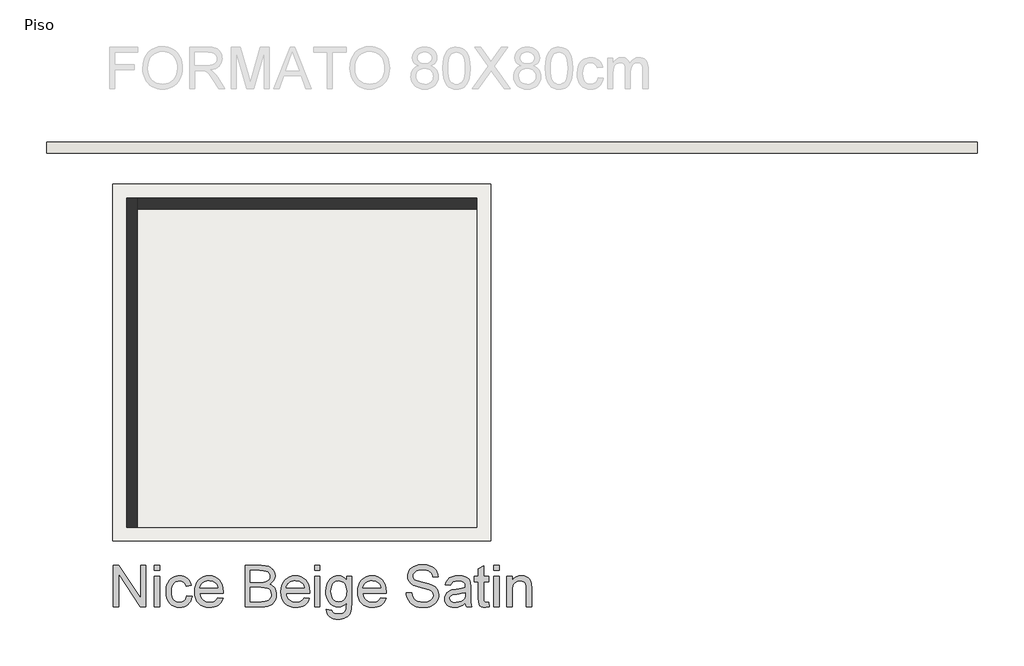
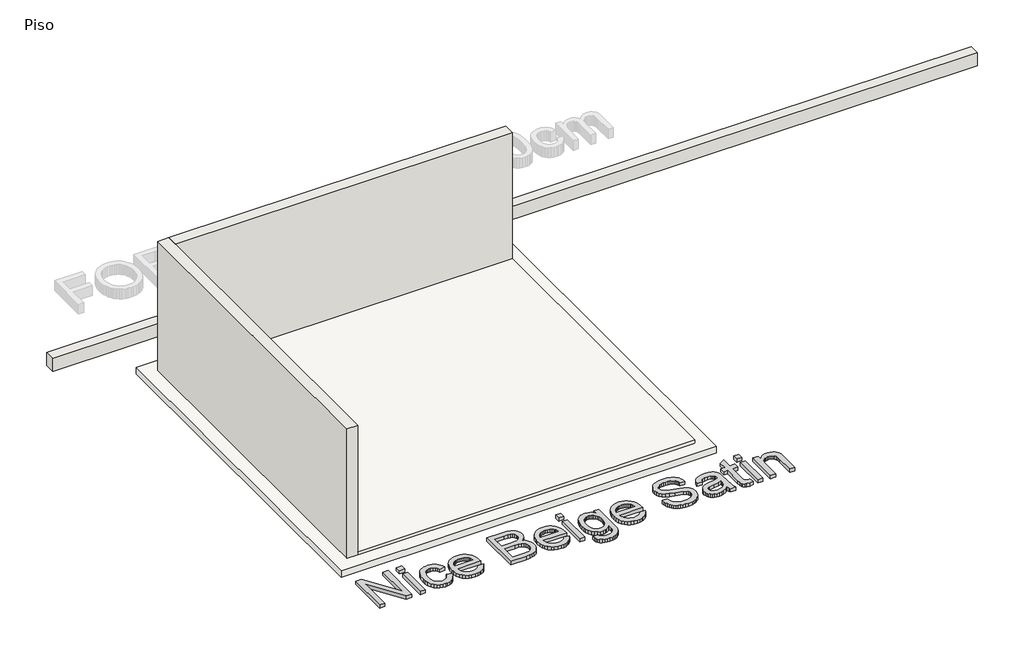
# One storey, part 1 of 2: 3 walls, 2 slabs, 1 proxy.
"""IFC4 building model written with IfcOpenShell, lengths in millimetres."""

import ifcopenshell
import ifcopenshell.guid

model = None  # the IFC model being written
_history = None  # IfcOwnerHistory: only IFC2X3 demands one
_inside = {}  # id of a spatial element -> (the spatial element, [elements in it])
_under = {}  # id of a project, library or spatial element -> (it, [spatial elements below it])
_declared = {}  # id of a project -> (the project, [libraries it declares])
_typed = {}  # id of a type object -> (the type object, [elements of that type])
_made_of = {}  # id of a material, layer set ... -> (it, [elements and type objects made of it])


def new_model(schema):
    """Start an empty IFC model of exactly this schema.

    Asked for "IFC4X3", IfcOpenShell would pick the latest addendum, in which some entities
    have other attributes; the version numbers below select the first issue.
    IFC2X3 requires an IfcOwnerHistory on every rooted entity: one is made here for all.
    """
    global model, _history
    if schema == "IFC4X3":
        model = ifcopenshell.file(schema_version=(4, 3, 0, 0))
    else:
        model = ifcopenshell.file(schema=schema)
    _inside.clear()
    _under.clear()
    _declared.clear()
    _typed.clear()
    _made_of.clear()
    _history = None
    if model.schema == "IFC2X3":
        org = make("IfcOrganization", Name="unknown")
        user = make(
            "IfcPersonAndOrganization",
            ThePerson=make("IfcPerson", FamilyName="unknown"),
            TheOrganization=org,
        )
        app = make(
            "IfcApplication",
            ApplicationDeveloper=org,
            Version="unknown",
            ApplicationFullName="unknown",
            ApplicationIdentifier="unknown",
        )
        _history = make(
            "IfcOwnerHistory",
            OwningUser=user,
            OwningApplication=app,
            ChangeAction="ADDED",
            CreationDate=0,
        )
    return model


def make(cls, **values):
    """One entity of the class cls with the attributes given. An attribute that is None is left unset."""
    return model.create_entity(
        cls, **{name: value for name, value in values.items() if value is not None}
    )


def rooted(cls, **values):
    """An entity with a GlobalId (a new one), such as an element, a storey or a relation."""
    return make(cls, GlobalId=ifcopenshell.guid.new(), OwnerHistory=_history, **values)


def si_unit(unit_type, name, prefix=None):
    """IfcSIUnit, for example si_unit("LENGTHUNIT", "METRE", prefix="MILLI")."""
    return make("IfcSIUnit", UnitType=unit_type, Prefix=prefix, Name=name)


def assignment(units):
    """IfcUnitAssignment: the units of a project."""
    return None if units is None else make("IfcUnitAssignment", Units=units)


def point(xyz):
    """IfcCartesianPoint."""
    return None if xyz is None else make("IfcCartesianPoint", Coordinates=xyz)


def direction(xyz):
    """IfcDirection."""
    return None if xyz is None else make("IfcDirection", DirectionRatios=xyz)


def frame(location, z_axis=None, x_axis=None):
    """IfcAxis2Placement3D, a coordinate frame: its origin and axes. An axis left out is left unset."""
    return make(
        "IfcAxis2Placement3D",
        Location=point(location),
        Axis=direction(z_axis),
        RefDirection=direction(x_axis),
    )


def origin():
    """The frame at (0, 0, 0) with its axes left unset."""
    return frame((0.0, 0.0, 0.0))


def origin_with_axes():
    """The frame at (0, 0, 0) with the z axis (0, 0, 1) and the x axis (1, 0, 0) written out."""
    return frame((0.0, 0.0, 0.0), z_axis=(0.0, 0.0, 1.0), x_axis=(1.0, 0.0, 0.0))


def place(relative_to, where):
    """IfcLocalPlacement: puts the frame where relative to a parent placement (None: the world)."""
    return make(
        "IfcLocalPlacement", PlacementRelTo=relative_to, RelativePlacement=where
    )


def context(
    kind, dimensions, precision=None, world=None, true_north=None, identifier=None
):
    """IfcGeometricRepresentationContext, for example the 3D "Model" context."""
    return make(
        "IfcGeometricRepresentationContext",
        ContextIdentifier=identifier,
        ContextType=kind,
        CoordinateSpaceDimension=dimensions,
        Precision=precision,
        WorldCoordinateSystem=world,
        TrueNorth=true_north,
    )


def project(units=None, contexts=None):
    """IfcProject with its units and contexts."""
    return rooted(
        "IfcProject",
        Name="project",
        RepresentationContexts=contexts,
        UnitsInContext=assignment(units),
    )


def spatial(cls, under=None, at=None, **own):
    """A site, building, storey or space (cls), placed at a placement, below another one or the project."""
    s = rooted(cls, ObjectPlacement=at, **own)
    if under is not None:
        _under.setdefault(under.id(), (under, []))[1].append(s)
    return s


def polyline(points):
    """IfcPolyline through the points."""
    return make("IfcPolyline", Points=[point(p) for p in points])


def outline(outer, holes=None, kind="AREA"):
    """IfcArbitraryClosedProfileDef: a profile drawn as a closed curve; with holes, ...WithVoids."""
    if holes is None:
        return make("IfcArbitraryClosedProfileDef", ProfileType=kind, OuterCurve=outer)
    return make(
        "IfcArbitraryProfileDefWithVoids",
        ProfileType=kind,
        OuterCurve=outer,
        InnerCurves=holes,
    )


def extrude(swept, where, along, depth):
    """IfcExtrudedAreaSolid: the profile swept, set in the frame where, extruded along a direction by depth."""
    return make(
        "IfcExtrudedAreaSolid",
        SweptArea=swept,
        Position=where,
        ExtrudedDirection=direction(along),
        Depth=depth,
    )


def faces_of(points, faces, orient=None, outer=None):
    """IfcFace entities. A face is a list of loops; a loop is a list of indices into points, from 0.

    orient and outer hold one flag for each loop. By default every Orientation is true, the
    first loop of a face is its IfcFaceOuterBound and the others are IfcFaceBound.
    """
    made = []
    for i, loops in enumerate(faces):
        bounds = []
        for j, loop in enumerate(loops):
            is_outer = j == 0 if outer is None else outer[i][j]
            bounds.append(
                make(
                    "IfcFaceOuterBound" if is_outer else "IfcFaceBound",
                    Bound=make("IfcPolyLoop", Polygon=[points[k] for k in loop]),
                    Orientation=True if orient is None else orient[i][j],
                )
            )
        made.append(make("IfcFace", Bounds=bounds))
    return made


def faceted_brep(points, faces, orient=None, outer=None, voids=None):
    """IfcFacetedBrep: a solid bounded by flat faces; with voids (closed shells), ...WithVoids."""
    shared = [point(p) for p in points]
    hull = make("IfcClosedShell", CfsFaces=faces_of(shared, faces, orient, outer))
    if voids is None:
        return make("IfcFacetedBrep", Outer=hull)
    return make(
        "IfcFacetedBrepWithVoids",
        Outer=hull,
        Voids=[
            make(cls, CfsFaces=faces_of(shared, fs, o, b)) for cls, fs, o, b in voids
        ],
    )


def shape(context_of_items, identifier, shape_type, items):
    """IfcShapeRepresentation: the items that make up one representation, for example the "Body"."""
    return make(
        "IfcShapeRepresentation",
        ContextOfItems=context_of_items,
        RepresentationIdentifier=identifier,
        RepresentationType=shape_type,
        Items=items,
    )


def made_of(thing, what):
    """Note that an element or type object is made of a material, layer set ...; save() writes the relation."""
    if what is not None:
        _made_of.setdefault(what.id(), (what, []))[1].append(thing)
    return thing


def element(
    cls,
    number,
    at=None,
    inside=None,
    cuts=None,
    type_object=None,
    material=None,
    context=None,
    identifier="Body",
    shape_type=None,
    held_by="IfcProductDefinitionShape",
    body=None,
    shapes=None,
    **own,
):
    """One element of the class cls, such as IfcWall. Its Tag is "e" and its number.

    at: its placement. inside: the storey or other place that contains it. cuts: it is an
    opening in that element (IfcRelVoidsElement). A single representation is given by context,
    identifier, shape_type and body (its items); several are given by shapes. held_by: the class
    of the entity that holds the representations. save() writes the other relations.
    """
    e = rooted(cls, Tag="e%d" % number, ObjectPlacement=at, **own)
    if body is not None:
        shapes = [shape(context, identifier, shape_type, body)]
    if shapes is not None:
        e.Representation = make(held_by, Representations=shapes)
    if inside is not None:
        _inside.setdefault(inside.id(), (inside, []))[1].append(e)
    if cuts is not None:
        rooted(
            "IfcRelVoidsElement", RelatingBuildingElement=cuts, RelatedOpeningElement=e
        )
    if type_object is not None:
        _typed.setdefault(type_object.id(), (type_object, []))[1].append(e)
    return made_of(e, material)


def aggregate(whole, parts):
    """IfcRelAggregates: a whole, such as a stair, and the parts it consists of."""
    return rooted("IfcRelAggregates", RelatingObject=whole, RelatedObjects=parts)


def save(model, path):
    """Write the relations noted so far, then the file.

    IfcRelAggregates (storeys below a building ...), IfcRelContainedInSpatialStructure (elements
    in a storey), IfcRelDefinesByType, IfcRelAssociatesMaterial and IfcRelDeclares: one each for
    every whole, place, type object, material and project.
    """
    for whole, parts in _under.values():
        aggregate(whole, parts)
    for where, things in _inside.values():
        rooted(
            "IfcRelContainedInSpatialStructure",
            RelatedElements=things,
            RelatingStructure=where,
        )
    for kind, things in _typed.values():
        rooted("IfcRelDefinesByType", RelatedObjects=things, RelatingType=kind)
    for what, things in _made_of.values():
        rooted("IfcRelAssociatesMaterial", RelatedObjects=things, RelatingMaterial=what)
    for by, libraries in _declared.values():
        rooted("IfcRelDeclares", RelatingContext=by, RelatedDefinitions=libraries)
    model.write(path)


model = new_model("IFC4")

# Units and contexts
model_context = context("Model", 3, world=origin())
ifc_project = project(units=[si_unit("LENGTHUNIT", "METRE", prefix="MILLI")], contexts=[model_context])

# Site, building, storey
site = spatial("IfcSite", under=ifc_project)
building = spatial("IfcBuilding", under=site)
storey = spatial("IfcBuildingStorey", under=building, Name="Piso", Elevation=0.0)

# Proxy
placement = place(None, origin())
element("IfcBuildingElementProxy", 1, Name="600mm Arial", ObjectType="600mm Arial", at=placement, inside=storey, context=model_context, shape_type="SweptSolid", body=[
    extrude(outline(polyline([(92656.5593132, -4817.6985035), (92656.5593132, -4214.9606426), (92737.1990466, -4214.9606426), (93052.1060344, -4692.4714724), (93052.1060344, -4214.9606426), (93127.448267, -4214.9606426), (93127.448267, -4817.6985035), (93046.8085337, -4817.6985035), (92731.9015458, -4340.040521), (92731.9015458, -4817.6985035), (92656.5593132, -4817.6985035)])), origin_with_axes(), (0.0, 0.0, 1.0), 50.0),
    extrude(outline(polyline([(93249.879395, -4290.3028752), (93249.879395, -4214.9606426), (93325.2216276, -4214.9606426), (93325.2216276, -4290.3028752), (93249.879395, -4290.3028752)])), origin_with_axes(), (0.0, 0.0, 1.0), 50.0),
    extrude(outline(polyline([(93249.879395, -4817.6985035), (93249.879395, -4375.0628869), (93325.2216276, -4375.0628869), (93325.2216276, -4817.6985035), (93249.879395, -4817.6985035)])), origin_with_axes(), (0.0, 0.0, 1.0), 50.0),
    extrude(outline(polyline([(93720.7683489, -4657.5962592), (93796.1105815, -4667.0140383), (93787.91601, -4702.5652346), (93775.1045195, -4734.0237437), (93757.67611, -4761.3895656), (93735.6307815, -4784.6627003), (93709.8974359, -4803.2361426), (93681.4049754, -4816.502887), (93650.1533999, -4824.4629337), (93616.1427094, -4827.1162826), (93573.8868638, -4823.41447), (93535.9996168, -4812.3090323), (93502.4809685, -4793.7999694), (93473.3309189, -4767.8872814), (93449.7358874, -4735.0584118), (93432.8822935, -4695.8008044), (93422.7701372, -4650.1144591), (93419.3994184, -4597.999376), (93425.1567716, -4530.9528824), (93432.3534632, -4500.7819602), (93442.4288313, -4472.8459212), (93455.4518539, -4447.7057854), (93471.4915089, -4425.9225728), (93490.5477963, -4407.4962833), (93512.620716, -4392.4269171), (93536.7123881, -4380.7098755), (93561.8249328, -4372.3405602), (93587.9583501, -4367.3189709), (93615.1126398, -4365.6451078), (93648.5393176, -4367.9443703), (93678.7746191, -4374.8421577), (93705.8185443, -4386.3384701), (93729.6710931, -4402.4333074), (93749.9275955, -4422.7587876), (93766.1833812, -4446.9470288), (93778.4384501, -4474.9980309), (93786.6928024, -4506.911794), (93711.3505698, -4516.3295731), (93697.6837537, -4483.4593168), (93676.4017802, -4459.896475), (93648.6818719, -4445.7146241), (93615.701251, -4440.9873405), (93590.1012627, -4443.3141941), (93567.012069, -4450.2947549), (93546.4336699, -4461.929023), (93528.3660654, -4478.2169984), (93513.6553841, -4499.53576), (93503.1477546, -4526.2623869), (93496.8431769, -4558.3968792), (93494.741651, -4595.9392368), (93496.7971917, -4634.047213), (93502.9638136, -4666.5541858), (93513.2415169, -4693.4601552), (93527.6303014, -4714.7651213), (93545.3392209, -4730.9565276), (93565.5773292, -4742.5218178), (93588.3446262, -4749.4609919), (93613.6411119, -4751.77405), (93652.6549975, -4745.9983027), (93669.5269855, -4738.7786185), (93684.6423369, -4728.6710607), (93697.5779876, -4715.5652646), (93707.9108731, -4699.3508657), (93715.6409936, -4680.0278639), (93720.7683489, -4657.5962592)])), origin_with_axes(), (0.0, 0.0, 1.0), 50.0),
    extrude(outline(polyline([(94171.9388277, -4685.8495964), (94245.8095324, -4695.2673755), (94234.4833654, -4724.854285), (94219.19327, -4750.9279214), (94199.9392461, -4773.4882847), (94176.7212937, -4792.535375), (94149.7785361, -4807.6645221), (94119.3500965, -4818.4710557), (94085.4359751, -4824.9549759), (94048.0361718, -4827.1162826), (94001.2875672, -4823.3868789), (93959.6341283, -4812.1986677), (93923.0758551, -4793.5516491), (93891.6127474, -4767.445823), (93866.3116632, -4734.6077564), (93848.2394602, -4695.7640162), (93837.3961384, -4650.9146025), (93833.7816978, -4600.0595152), (93837.4329266, -4547.479981), (93848.386613, -4501.1360467), (93866.642757, -4461.0277121), (93892.2013586, -4427.1549774), (93923.5816928, -4400.2444095), (93959.3030345, -4381.0225752), (93999.3653838, -4369.4894747), (94043.7687406, -4365.6451078), (94086.7419562, -4369.4802776), (94125.6040905, -4380.985787), (94160.3551434, -4400.161636), (94190.9951151, -4427.0078246), (94216.0064922, -4460.8069829), (94233.8717616, -4500.8417411), (94244.5909233, -4547.112099), (94248.1639771, -4599.6180568), (94247.7225188, -4619.9251429), (93909.1239304, -4619.9251429), (93913.4879306, -4649.990299), (93922.1653471, -4676.3214528), (93935.1561801, -4698.9186043), (93952.4604294, -4717.7817536), (93973.121602, -4732.6533833), (93996.1832045, -4743.2759759), (94021.6452371, -4749.6495315), (94049.5076998, -4751.77405), (94089.6068372, -4747.8377126), (94123.3784044, -4736.0287006), (94150.8224012, -4715.6112499), (94171.9388277, -4685.8495964)]), holes=[polyline([(93909.1239304, -4544.5829103), (94172.8217445, -4544.5829103), (94162.6314133, -4504.7780784), (94153.8666247, -4489.1246995), (94142.6554209, -4476.304012), (94122.1092115, -4460.8529682), (94098.7303107, -4449.8165083), (94072.5187185, -4443.1946324), (94043.474435, -4440.9873405), (94016.9823329, -4442.7485755), (93992.6883256, -4448.0322807), (93970.5924133, -4456.8384559), (93950.6945958, -4469.1671013), (93933.9973518, -4484.4479997), (93921.5031595, -4502.110934), (93913.2120191, -4522.1559042), (93909.1239304, -4544.5829103)])]), origin_with_axes(), (0.0, 0.0, 1.0), 50.0),
    extrude(outline(polyline([(94568.3684657, -4817.6985035), (94568.3684657, -4214.9606426), (94798.3682891, -4214.9606426), (94861.6255982, -4219.3936207), (94911.0137561, -4232.6925548), (94931.0909159, -4242.7495288), (94948.8688134, -4255.1885388), (94964.3474483, -4270.0095847), (94977.5268208, -4287.2126665), (94995.5714326, -4324.8837828), (95001.5863033, -4364.3207327), (94996.5279258, -4400.6122915), (94981.3527935, -4434.7333465), (94955.9505418, -4464.5869704), (94920.2108059, -4488.0762358), (94942.9505118, -4497.7699264), (94962.9035115, -4510.3698847), (94980.0698051, -4525.8761108), (94994.4493926, -4544.2886047), (95005.8123477, -4565.0463463), (95013.9287442, -4587.5883155), (95018.7985821, -4611.9145125), (95020.4218614, -4638.0249371), (95015.9888834, -4680.055455), (95002.6899493, -4719.0325524), (94982.8427156, -4752.1787202), (94958.764839, -4776.7164493), (94929.2790971, -4794.4851496), (94893.2082675, -4807.3242313), (94849.3751278, -4815.1049355), (94796.6024556, -4817.6985035), (94568.3684657, -4817.6985035)]), holes=[polyline([(94643.7106984, -4459.8228986), (94781.2985646, -4459.8228986), (94829.4175295, -4458.2042178), (94861.6439923, -4453.3481755), (94889.7685708, -4442.1829569), (94909.9836865, -4425.4627203), (94922.1789746, -4403.4449828), (94926.2440707, -4376.3872621), (94922.4548861, -4350.1204876), (94911.0873325, -4327.2382275), (94892.6564445, -4309.3775567), (94867.677257, -4298.1755499), (94829.3439531, -4292.2710439), (94770.8507159, -4290.3028752), (94643.7106984, -4290.3028752), (94643.7106984, -4459.8228986)]), polyline([(94643.7106984, -4742.3562709), (94798.2211363, -4742.3562709), (94854.1391996, -4739.4132149), (94880.0932744, -4732.8833095), (94901.4488242, -4723.005678), (94918.8128544, -4708.8606152), (94932.7923702, -4689.5284164), (94942.0078141, -4665.8736041), (94945.0796288, -4638.7607011), (94941.4743853, -4607.2700023), (94930.6586546, -4580.1938874), (94911.7679141, -4559.0222786), (94883.9376412, -4545.2450979), (94844.5190854, -4537.6851229), (94790.8634964, -4535.1651312), (94643.7106984, -4535.1651312), (94643.7106984, -4742.3562709)])]), origin_with_axes(), (0.0, 0.0, 1.0), 50.0),
    extrude(outline(polyline([(95424.5034449, -4685.8495964), (95498.3741496, -4695.2673755), (95487.0479826, -4724.854285), (95471.7578872, -4750.9279214), (95452.5038633, -4773.4882847), (95429.2859109, -4792.535375), (95402.3431532, -4807.6645221), (95371.9147137, -4818.4710557), (95338.0005923, -4824.9549759), (95300.6007889, -4827.1162826), (95253.8521844, -4823.3868789), (95212.1987455, -4812.1986677), (95175.6404722, -4793.5516491), (95144.1773646, -4767.445823), (95118.8762804, -4734.6077564), (95100.8040774, -4695.7640162), (95089.9607556, -4650.9146025), (95086.346315, -4600.0595152), (95089.9975438, -4547.479981), (95100.9512302, -4501.1360467), (95119.2073742, -4461.0277121), (95144.7659758, -4427.1549774), (95176.14631, -4400.2444095), (95211.8676517, -4381.0225752), (95251.930001, -4369.4894747), (95296.3333578, -4365.6451078), (95339.3065734, -4369.4802776), (95378.1687076, -4380.985787), (95412.9197606, -4400.161636), (95443.5597323, -4427.0078246), (95468.5711094, -4460.8069829), (95486.4363788, -4500.8417411), (95497.1555404, -4547.112099), (95500.7285943, -4599.6180568), (95500.2871359, -4619.9251429), (95161.6885476, -4619.9251429), (95166.0525477, -4649.990299), (95174.7299643, -4676.3214528), (95187.7207973, -4698.9186043), (95205.0250466, -4717.7817536), (95225.6862192, -4732.6533833), (95248.7478217, -4743.2759759), (95274.2098543, -4749.6495315), (95302.0723169, -4751.77405), (95342.1714544, -4747.8377126), (95375.9430216, -4736.0287006), (95403.3870184, -4715.6112499), (95424.5034449, -4685.8495964)]), holes=[polyline([(95161.6885476, -4544.5829103), (95425.3863617, -4544.5829103), (95415.1960304, -4504.7780784), (95406.4312419, -4489.1246995), (95395.2200381, -4476.304012), (95374.6738287, -4460.8529682), (95351.2949279, -4449.8165083), (95325.0833357, -4443.1946324), (95296.0390522, -4440.9873405), (95269.54695, -4442.7485755), (95245.2529428, -4448.0322807), (95223.1570304, -4456.8384559), (95203.259213, -4469.1671013), (95186.561969, -4484.4479997), (95174.0677767, -4502.110934), (95165.7766362, -4522.1559042), (95161.6885476, -4544.5829103)])]), origin_with_axes(), (0.0, 0.0, 1.0), 50.0),
    extrude(outline(polyline([(95576.0708269, -4290.3028752), (95576.0708269, -4214.9606426), (95651.4130595, -4214.9606426), (95651.4130595, -4290.3028752), (95576.0708269, -4290.3028752)])), origin_with_axes(), (0.0, 0.0, 1.0), 50.0),
    extrude(outline(polyline([(95576.0708269, -4817.6985035), (95576.0708269, -4375.0628869), (95651.4130595, -4375.0628869), (95651.4130595, -4817.6985035), (95576.0708269, -4817.6985035)])), origin_with_axes(), (0.0, 0.0, 1.0), 50.0),
    extrude(outline(polyline([(95745.5908503, -4855.3696198), (95820.9330829, -4864.7873989), (95829.247216, -4888.3318466), (95845.3604474, -4904.5186544), (95877.0350872, -4917.1002186), (95918.495388, -4921.2940734), (95962.7148039, -4916.5483956), (95980.5754747, -4910.6162984), (95995.6034542, -4902.3113624), (96018.4121379, -4879.5026787), (96032.3916538, -4849.0420495), (96036.4751439, -4816.6316457), (96037.5420017, -4761.1918291), (96012.4708437, -4785.9134991), (95984.493418, -4803.5718349), (95953.6097245, -4814.1668364), (95919.8197632, -4817.6985035), (95878.5112137, -4813.5874222), (95842.1414799, -4801.2541783), (95810.710562, -4780.6987719), (95784.2184598, -4751.9212028), (95763.1986023, -4717.3954775), (95748.1844184, -4679.5956025), (95739.175908, -4638.5215778), (95736.1730712, -4594.1734032), (95741.5625425, -4533.3441153), (95757.7309562, -4477.407658), (95769.7147121, -4452.1847487), (95784.1080952, -4430.0060629), (95800.9111053, -4410.8716006), (95820.1237425, -4394.7813619), (95841.4379056, -4382.0342507), (95864.5454935, -4372.9291713), (95889.446506, -4367.4661237), (95916.1409433, -4365.6451078), (95951.3748414, -4369.7653862), (95983.3529838, -4382.1262212), (96012.0753706, -4402.727613), (96037.5420017, -4431.5695614), (96037.5420017, -4375.0628869), (96112.8842343, -4375.0628869), (96112.8842343, -4757.2187035), (96107.7338864, -4845.4552001), (96101.2959514, -4878.2748725), (96092.2828426, -4903.5621612), (96080.478429, -4923.9566193), (96065.6665802, -4942.0978002), (96047.8472961, -4957.9857039), (96027.0205766, -4971.6203303), (96003.397954, -4982.5648197), (95977.1909604, -4990.3823121), (95948.3995957, -4995.0728075), (95917.0238601, -4996.636306), (95880.1115004, -4994.4336125), (95846.9239459, -4987.8255322), (95817.4611966, -4976.812065), (95791.7232525, -4961.3932108), (95770.9333213, -4941.5505757), (95756.3146105, -4917.2657655), (95747.8671202, -4888.5387802), (95745.5908503, -4855.3696198)]), holes=[polyline([(95811.5153038, -4589.0230553), (95813.5248592, -4626.2757059), (95819.5535254, -4658.1296881), (95829.6013024, -4684.5850021), (95843.6681902, -4705.6416478), (95860.7701045, -4721.7042954), (95879.9229609, -4733.1776151), (95901.1267593, -4740.061607), (95924.3815, -4742.3562709), (95947.4063143, -4740.0754025), (95968.5089453, -4733.2327974), (95987.6893928, -4721.8284556), (96004.9476569, -4705.862377), (96019.2076828, -4685.0126649), (96029.3934155, -4658.9574226), (96035.5048551, -4627.6966501), (96037.5420017, -4591.2303473), (96035.4450743, -4556.2861563), (96029.1542922, -4525.912899), (96018.6696553, -4500.1105756), (96003.9911637, -4478.879186), (95986.3604191, -4462.3015036), (95967.0190232, -4450.4603018), (95945.966976, -4443.3555808), (95923.2042776, -4440.9873405), (95900.8232567, -4443.3187926), (95880.1804782, -4450.313149), (95861.2759422, -4461.9704098), (95844.1096486, -4478.2905748), (95829.8496228, -4499.2000677), (95819.66389, -4524.6253121), (95813.5524504, -4554.5663079), (95811.5153038, -4589.0230553)])]), origin_with_axes(), (0.0, 0.0, 1.0), 50.0),
    extrude(outline(polyline([(96535.801376, -4685.8495964), (96609.6720806, -4695.2673755), (96598.3459137, -4724.854285), (96583.0558182, -4750.9279214), (96563.8017943, -4773.4882847), (96540.5838419, -4792.535375), (96513.6410843, -4807.6645221), (96483.2126447, -4818.4710557), (96449.2985233, -4824.9549759), (96411.89872, -4827.1162826), (96365.1501154, -4823.3868789), (96323.4966765, -4812.1986677), (96286.9384033, -4793.5516491), (96255.4752956, -4767.445823), (96230.1742114, -4734.6077564), (96212.1020084, -4695.7640162), (96201.2586866, -4650.9146025), (96197.644246, -4600.0595152), (96201.2954748, -4547.479981), (96212.2491612, -4501.1360467), (96230.5053052, -4461.0277121), (96256.0639068, -4427.1549774), (96287.444241, -4400.2444095), (96323.1655827, -4381.0225752), (96363.227932, -4369.4894747), (96407.6312888, -4365.6451078), (96450.6045044, -4369.4802776), (96489.4666387, -4380.985787), (96524.2176916, -4400.161636), (96554.8576633, -4427.0078246), (96579.8690405, -4460.8069829), (96597.7343098, -4500.8417411), (96608.4534715, -4547.112099), (96612.0265254, -4599.6180568), (96611.585067, -4619.9251429), (96272.9864786, -4619.9251429), (96277.3504788, -4649.990299), (96286.0278953, -4676.3214528), (96299.0187283, -4698.9186043), (96316.3229776, -4717.7817536), (96336.9841502, -4732.6533833), (96360.0457528, -4743.2759759), (96385.5077853, -4749.6495315), (96413.370248, -4751.77405), (96453.4693854, -4747.8377126), (96487.2409526, -4736.0287006), (96514.6849494, -4715.6112499), (96535.801376, -4685.8495964)]), holes=[polyline([(96272.9864786, -4544.5829103), (96536.6842927, -4544.5829103), (96526.4939615, -4504.7780784), (96517.7291729, -4489.1246995), (96506.5179691, -4476.304012), (96485.9717597, -4460.8529682), (96462.5928589, -4449.8165083), (96436.3812668, -4443.1946324), (96407.3369832, -4440.9873405), (96380.8448811, -4442.7485755), (96356.5508738, -4448.0322807), (96334.4549615, -4456.8384559), (96314.5571441, -4469.1671013), (96297.8599, -4484.4479997), (96285.3657077, -4502.110934), (96277.0745673, -4522.1559042), (96272.9864786, -4544.5829103)])]), origin_with_axes(), (0.0, 0.0, 1.0), 50.0),
    extrude(outline(polyline([(96903.9776767, -4610.5073638), (96979.3199093, -4610.5073638), (96987.9651362, -4652.3171526), (97003.600121, -4685.9231728), (97027.9906973, -4712.5946175), (97062.9026986, -4733.6006794), (97105.5770101, -4747.2307073), (97153.2545167, -4751.77405), (97195.2298523, -4748.3343533), (97231.9812636, -4738.0152634), (97261.7613111, -4721.6813028), (97282.8225554, -4700.1969943), (97295.3489373, -4675.5305065), (97299.5243979, -4649.6500081), (97296.397401, -4624.4316974), (97287.0164101, -4602.6346891), (97267.9601228, -4584.0382543), (97235.8072364, -4568.4216636), (97126.1048254, -4539.6532916), (97054.0919249, -4520.6153983), (97008.014705, -4502.49721), (96970.5091356, -4477.1501406), (96943.9296614, -4446.431994), (96928.0923415, -4411.0049578), (96922.8132349, -4371.5312198), (96924.4457112, -4349.0950166), (96929.3431403, -4327.4037744), (96937.5055221, -4306.4574933), (96948.9328565, -4286.2561733), (96963.496385, -4267.6229502), (96981.0673488, -4251.3809601), (97001.6457479, -4237.530203), (97025.2315823, -4226.0706789), (97078.2433778, -4210.6748174), (97136.9205561, -4205.5428635), (97200.4905648, -4210.9139407), (97256.1143225, -4227.0271721), (97280.4497165, -4239.0293222), (97301.8052663, -4253.5514639), (97320.180972, -4270.5935973), (97335.5768335, -4290.1557224), (97347.8732892, -4311.6676221), (97356.9507774, -4334.5590793), (97362.8092982, -4358.8300939), (97365.4488515, -4384.480666), (97290.1066189, -4384.480666), (97285.0666355, -4360.4395776), (97276.2742558, -4339.5254862), (97263.7294798, -4321.7383917), (97247.4323074, -4307.0782942), (97227.079236, -4295.6187701), (97202.366763, -4287.4333957), (97173.2948883, -4282.522171), (97139.863612, -4280.8850962), (97105.3654779, -4282.5037769), (97075.8889331, -4287.3598193), (97051.4339774, -4295.4532232), (97032.000611, -4306.7839886), (97017.1933607, -4320.4048195), (97006.6167534, -4335.3684196), (97000.270789, -4351.6747891), (96998.1554675, -4369.3239278), (96999.6545866, -4384.5082571), (97004.151944, -4398.2762408), (97011.6475397, -4410.6278788), (97022.1413736, -4421.5631711), (97038.6592752, -4431.9190493), (97064.6685322, -4442.385292), (97145.1611128, -4463.6488714), (97228.2288673, -4483.8455929), (97278.4815478, -4501.4671405), (97321.4317708, -4528.8007727), (97338.0370443, -4544.8680188), (97351.3957593, -4562.5355517), (97361.6642655, -4581.7114007), (97368.9989127, -4602.3035953), (97374.8666306, -4647.7370217), (97373.1789719, -4671.3044621), (97368.1159959, -4694.1821236), (97359.6777027, -4716.3700065), (97347.8640921, -4737.8681106), (97332.8820979, -4757.8441029), (97314.9386535, -4775.4656505), (97294.0337592, -4790.7327533), (97270.1674147, -4803.6454113), (97244.0339975, -4813.9139175), (97216.3278847, -4821.2485648), (97156.1975726, -4827.1162826), (97117.6573351, -4825.53439), (97082.3820503, -4820.7887123), (97050.3717182, -4812.8792494), (97021.6263388, -4801.8060013), (96995.9711681, -4787.550574), (96973.2314623, -4770.0945733), (96953.4072213, -4749.4379993), (96936.4984451, -4725.5808519), (96922.8776142, -4699.2956834), (96912.9172092, -4671.3550458), (96906.61723, -4641.7589393), (96903.9776767, -4610.5073638)])), origin_with_axes(), (0.0, 0.0, 1.0), 50.0),
    extrude(outline(polyline([(97760.9955727, -4761.1918291), (97724.9983195, -4792.0571285), (97687.9342084, -4812.25385), (97648.9571111, -4823.4006744), (97607.2208987, -4827.1162826), (97573.6746593, -4824.8813995), (97544.2578952, -4818.1767501), (97518.9706066, -4807.0023345), (97497.8127933, -4791.3581527), (97481.1063522, -4772.237486), (97469.17318, -4750.6336158), (97462.0132767, -4726.5465422), (97459.6266422, -4699.9762651), (97463.2318858, -4668.7430837), (97474.0476165, -4640.3793818), (97490.7310649, -4616.0991702), (97511.939462, -4597.1164592), (97536.8634671, -4582.7690614), (97564.6937401, -4572.3947891), (97629.8824296, -4561.0640237), (97706.9169194, -4549.144647), (97760.5541143, -4535.1651312), (97760.9955727, -4518.3897122), (97755.8084366, -4484.7652979), (97749.3245164, -4472.3124923), (97740.2470282, -4462.7659546), (97724.5568611, -4453.2378109), (97705.4453914, -4446.431994), (97656.9585445, -4440.9873405), (97612.076941, -4444.6109781), (97580.7333951, -4455.4818911), (97559.3594511, -4475.5866421), (97544.3866539, -4506.911794), (97469.0444213, -4497.4940149), (97482.1226262, -4456.2912315), (97501.6387661, -4423.9176159), (97529.4138567, -4399.1591576), (97567.268914, -4380.801846), (97613.5668631, -4369.4342924), (97666.6706291, -4365.6451078), (97717.6038914, -4368.992834), (97757.9789403, -4379.0360125), (97788.4211754, -4394.1375684), (97809.5559961, -4412.6604268), (97823.5723001, -4435.561081), (97832.6589854, -4463.7960242), (97836.3378053, -4529.7204777), (97836.3378053, -4623.4568101), (97840.1637781, -4754.3492239), (97845.8291608, -4786.7044454), (97855.1733635, -4817.6985035), (97779.8311308, -4817.6985035), (97767.7646014, -4791.5053055), (97760.9955727, -4761.1918291)]), holes=[polyline([(97760.9955727, -4610.5073638), (97710.3750102, -4623.0521399), (97639.4473615, -4633.6103531), (97574.6265539, -4645.8240354), (97557.7591645, -4654.1749567), (97545.2695707, -4665.6896631), (97537.5440488, -4679.4852379), (97534.9688749, -4694.6787643), (97540.5790753, -4717.0827778), (97557.4096766, -4735.4400894), (97585.0927967, -4747.6905598), (97623.2605537, -4751.77405), (97663.7275732, -4747.2674955), (97699.4857031, -4733.7478322), (97728.4748043, -4713.8270222), (97748.6347377, -4690.1170276), (97757.5742701, -4665.6896631), (97760.5541143, -4631.8445196), (97760.9955727, -4610.5073638)])]), origin_with_axes(), (0.0, 0.0, 1.0), 50.0),
    extrude(outline(polyline([(98100.0356194, -4754.8642587), (98109.4533985, -4819.9057955), (98053.0938769, -4827.1162826), (98016.9310767, -4823.9892856), (97989.9653265, -4814.6082948), (97970.9090391, -4800.1505323), (97958.4746277, -4781.7932208), (97951.6320226, -4750.2657338), (97949.3511542, -4696.2974451), (97949.3511542, -4450.4051195), (97892.8444798, -4450.4051195), (97892.8444798, -4375.0628869), (97949.3511542, -4375.0628869), (97949.3511542, -4267.4941915), (98024.6933868, -4223.2011993), (98024.6933868, -4375.0628869), (98100.0356194, -4375.0628869), (98100.0356194, -4450.4051195), (98024.6933868, -4450.4051195), (98024.6933868, -4694.0901531), (98028.6665124, -4732.9384918), (98041.5423822, -4746.6972784), (98052.4132952, -4750.5048571), (98067.2205455, -4751.77405), (98100.0356194, -4754.8642587)])), origin_with_axes(), (0.0, 0.0, 1.0), 50.0),
    extrude(outline(polyline([(98175.3778521, -4290.3028752), (98175.3778521, -4214.9606426), (98250.7200847, -4214.9606426), (98250.7200847, -4290.3028752), (98175.3778521, -4290.3028752)])), origin_with_axes(), (0.0, 0.0, 1.0), 50.0),
    extrude(outline(polyline([(98175.3778521, -4817.6985035), (98175.3778521, -4375.0628869), (98250.7200847, -4375.0628869), (98250.7200847, -4817.6985035), (98175.3778521, -4817.6985035)])), origin_with_axes(), (0.0, 0.0, 1.0), 50.0),
    extrude(outline(polyline([(98363.7334336, -4817.6985035), (98363.7334336, -4375.0628869), (98439.0756662, -4375.0628869), (98439.0756662, -4436.8670621), (98465.2504702, -4405.7074571), (98496.6859866, -4383.4505964), (98533.3822157, -4370.09648), (98575.3391572, -4365.6451078), (98612.4768446, -4369.2319573), (98646.4875351, -4379.9925057), (98674.8512369, -4396.5839836), (98695.0479584, -4417.663622), (98708.7515628, -4443.1762383), (98717.6359129, -4473.0666504), (98721.6090385, -4545.9072855), (98721.6090385, -4817.6985035), (98646.2668059, -4817.6985035), (98646.2668059, -4556.0608285), (98644.0963021, -4517.1021253), (98637.5847908, -4489.400611), (98625.5734437, -4469.5533774), (98606.9034324, -4454.1575159), (98582.9727086, -4444.2798843), (98555.1792239, -4440.9873405), (98532.3015623, -4442.8359475), (98511.0517786, -4448.3817686), (98491.4298726, -4457.6248037), (98473.4358445, -4470.5650529), (98458.4032665, -4488.6740441), (98447.6657108, -4513.4233053), (98441.2231773, -4544.8128365), (98439.0756662, -4582.8426378), (98439.0756662, -4817.6985035), (98363.7334336, -4817.6985035)])), origin_with_axes(), (0.0, 0.0, 1.0), 50.0),
])

# Slabs
element("IfcSlab", 2, ObjectType="5cm - Porcelanato Nice Beige Satin  - Acetinado 80x80", at=placement, inside=storey, context=model_context, shape_type="SweptSolid", body=[
    extrude(outline(polyline([(97926.2495401, 958.4351277), (97926.2495401, -3662.1648723), (93005.6495401, -3662.1648723), (93005.6495401, 958.4351277), (97926.2495401, 958.4351277)])), origin_with_axes(), (0.0, 0.0, 1.0), 50.0),
])
element("IfcSlab", 3, ObjectType="CO02 - Concreto Estrutural Simples", at=placement, inside=storey, context=model_context, shape_type="SweptSolid", body=[
    extrude(outline(polyline([(98126.2495401, 1317.2351277), (98126.2495401, -3862.1648723), (92646.8495401, -3862.1648723), (92646.8495401, 1317.2351277), (98126.2495401, 1317.2351277)])), frame((0.0, 0.0, -100.0), z_axis=(0.0, 0.0, 1.0), x_axis=(1.0, 0.0, 0.0)), (0.0, 0.0, 1.0), 100.0),
])

# Walls
element("IfcWall", 4, ObjectType="CO01 - Bloco de Concreto 14cm / Pintura Branca Simples", at=placement, inside=storey, context=model_context, shape_type="SweptSolid", body=[
    extrude(outline(polyline([(105186.699165, 1765.7486968), (91686.699165, 1765.7486968), (91686.699165, 1924.5486968), (105186.699165, 1924.5486968), (105186.699165, 1765.7486968)])), origin_with_axes(), (0.0, 0.0, 1.0), 200.0),
])
element("IfcWall", 5, ObjectType="CO01 - Bloco de Concreto 14cm / Pintura Branca Simples", at=placement, inside=storey, context=model_context, shape_type="Brep", body=[
    faceted_brep([(93005.6495401, -3662.1648723, 0.0), (93005.6495401, 958.4351277, 0.0), (93005.6495401, 1117.2351277, 0.0), (93005.6495401, 1117.2351277, 2000.0), (93005.6495401, 958.4351277, 2000.0), (93005.6495401, -3662.1648723, 2000.0), (92846.8495401, -3662.1648723, 0.0), (92846.8495401, -3662.1648723, 2000.0), (92846.8495401, 1117.2351277, 2000.0), (92846.8495401, 1117.2351277, 0.0)], [[[0, 1, 2, 3, 4, 5]], [[6, 7, 8, 9]], [[2, 1, 0, 6, 9]], [[5, 4, 3, 8, 7]], [[0, 5, 7, 6]], [[3, 2, 9, 8]]]),
])
element("IfcWall", 6, ObjectType="CO01 - Bloco de Concreto 14cm / Pintura Branca Simples", at=placement, inside=storey, context=model_context, shape_type="SweptSolid", body=[
    extrude(outline(polyline([(97926.2495401, 958.4351277), (93005.6495401, 958.4351277), (93005.6495401, 1117.2351277), (97926.2495401, 1117.2351277), (97926.2495401, 958.4351277)])), origin_with_axes(), (0.0, 0.0, 1.0), 2000.0),
])

save(model, "model.ifc")
